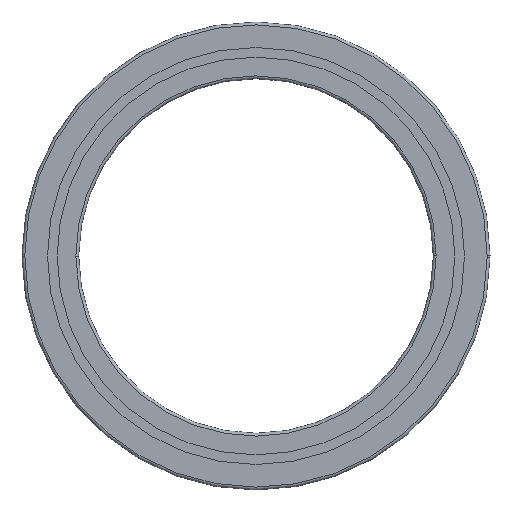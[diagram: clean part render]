
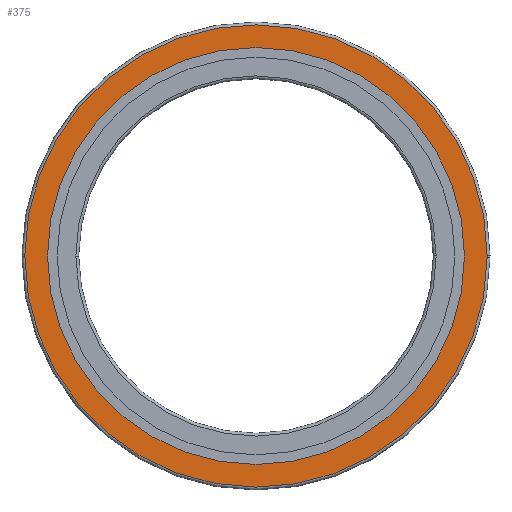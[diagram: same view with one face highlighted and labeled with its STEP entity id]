
A CAD part, front view. The second image highlights one B-rep face of the part: STEP entity #375.
In plain terms, the highlighted planar face has unit normal (0, -1, 0).
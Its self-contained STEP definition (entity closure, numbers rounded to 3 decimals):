
#331=EDGE_CURVE('',#357,#417,#871,.T.);
#357=VERTEX_POINT('',#903);
#375=ADVANCED_FACE('',(#924,#925),#926,.F.);
#383=EDGE_CURVE('',#773,#357,#934,.T.);
#417=VERTEX_POINT('',#970);
#487=EDGE_CURVE('',#511,#731,#1051,.T.);
#511=VERTEX_POINT('',#1079);
#541=VERTEX_POINT('',#1115);
#641=EDGE_CURVE('',#731,#511,#1227,.T.);
#731=VERTEX_POINT('',#1326);
#763=EDGE_CURVE('',#541,#773,#1362,.T.);
#773=VERTEX_POINT('',#1372);
#809=EDGE_CURVE('',#417,#541,#1411,.T.);
#871=CIRCLE('',#1477,163.0);
#903=CARTESIAN_POINT('',(163.0,0.0,0.0));
#924=FACE_OUTER_BOUND('',#1540,.T.);
#925=FACE_BOUND('',#1541,.T.);
#926=PLANE('',#1542);
#934=CIRCLE('',#1553,163.0);
#970=CARTESIAN_POINT('',(-162.997,0.0,1.009));
#1051=CIRCLE('',#1689,147.0);
#1079=CARTESIAN_POINT('',(147.0,0.0,0.));
#1115=CARTESIAN_POINT('',(-163.0,0.0,0.));
#1227=CIRCLE('',#1908,147.0);
#1326=CARTESIAN_POINT('',(-147.0,0.0,0.0));
#1362=CIRCLE('',#2074,163.0);
#1372=CARTESIAN_POINT('',(162.997,0.0,-1.009));
#1411=CIRCLE('',#2140,163.0);
#1477=AXIS2_PLACEMENT_3D('',#2182,#2183,#2184);
#1540=EDGE_LOOP('',(#2270,#2271,#2272,#2273));
#1541=EDGE_LOOP('',(#2274,#2275));
#1542=AXIS2_PLACEMENT_3D('',#2276,#2277,#2278);
#1553=AXIS2_PLACEMENT_3D('',#2285,#2286,#2287);
#1689=AXIS2_PLACEMENT_3D('',#2433,#2434,#2435);
#1908=AXIS2_PLACEMENT_3D('',#2697,#2698,#2699);
#2074=AXIS2_PLACEMENT_3D('',#2857,#2858,#2859);
#2140=AXIS2_PLACEMENT_3D('',#2927,#2928,#2929);
#2182=CARTESIAN_POINT('',(0.0,0.0,0.0));
#2183=DIRECTION('',(0.0,-1.0,0.0));
#2184=DIRECTION('',(1.0,0.0,0.0));
#2270=ORIENTED_EDGE('',*,*,#763,.T.);
#2271=ORIENTED_EDGE('',*,*,#383,.T.);
#2272=ORIENTED_EDGE('',*,*,#331,.T.);
#2273=ORIENTED_EDGE('',*,*,#809,.T.);
#2274=ORIENTED_EDGE('',*,*,#641,.F.);
#2275=ORIENTED_EDGE('',*,*,#487,.F.);
#2276=CARTESIAN_POINT('',(0.0,0.0,0.0));
#2277=DIRECTION('',(0.0,1.0,0.0));
#2278=DIRECTION('',(1.0,0.0,-0.0));
#2285=CARTESIAN_POINT('',(0.0,0.0,0.0));
#2286=DIRECTION('',(0.0,-1.0,0.0));
#2287=DIRECTION('',(-1.0,0.0,0.0));
#2433=CARTESIAN_POINT('',(0.0,0.0,0.0));
#2434=DIRECTION('',(0.0,-1.0,0.0));
#2435=DIRECTION('',(1.0,0.0,0.0));
#2697=CARTESIAN_POINT('',(0.0,0.0,0.0));
#2698=DIRECTION('',(0.0,-1.0,0.0));
#2699=DIRECTION('',(-1.0,0.0,0.0));
#2857=CARTESIAN_POINT('',(0.0,0.0,0.0));
#2858=DIRECTION('',(0.0,-1.0,0.0));
#2859=DIRECTION('',(-1.0,0.0,0.0));
#2927=CARTESIAN_POINT('',(0.0,0.0,0.0));
#2928=DIRECTION('',(0.0,-1.0,0.0));
#2929=DIRECTION('',(1.0,0.0,0.0));
